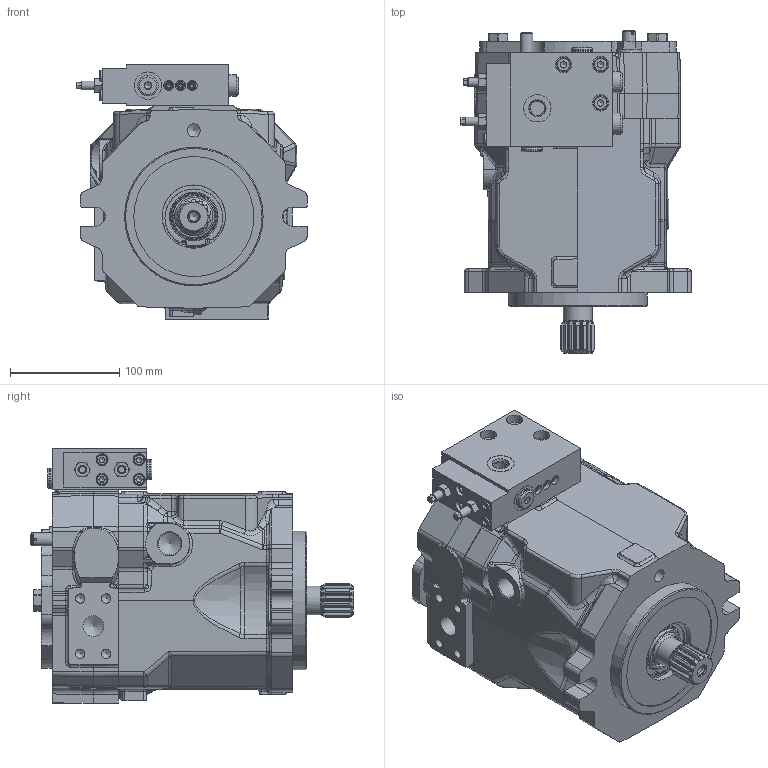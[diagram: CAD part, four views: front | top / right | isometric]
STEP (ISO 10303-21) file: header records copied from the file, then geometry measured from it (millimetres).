
FILE_DESCRIPTION(/* description */ (''),/* implementation_level */ '2;1');
FILE_NAME(/* name */ '2528055002m355.stp',/* time_stamp */ '2012-03-30T14:06:45+02:00',/* author */ (''),/* organization */ (''),/* preprocessor_version */ 'ST-DEVELOPER v11',/* originating_system */ 'SIEMENS PLM Software NX 7.5',/* authorisation */ '');
FILE_SCHEMA (('AUTOMOTIVE_DESIGN { 1 0 10303 214 1 1 1 1 }'));
Products named in the file (1): 2528055002m355
Bounding box: 211.3 x 295.3 x 233 mm (x, y, z)
Volume: 6401731.7 mm3; surface area: 537138.3 mm2
Topology: 7 solids, 25 shells, 2114 faces, 5052 edges, 3085 vertices
Faces by surface type: plane 742, cylinder 671, cone 260, bspline 181, torus 123, extrusion 64, sphere 37, revolution 36
Full cylindrical faces by diameter (mm): 2 x4, 2.5 x2, 3.8 x2, 4 x2, 5 x8, 5.2 x3, 6 x4, 7 x3, 8 x10, 8.5 x8, 9 x7, 9.2 x3, 10 x14, 10.2 x16, 10.5 x1, 10.7 x2, 11 x6, 11.85 x4, 12 x11, 12.3 x1, 12.5 x2, 12.8 x2, 13 x10, 13.5 x8, 14 x2, 15 x4, 16 x2, 16.63 x2, 18 x11, 18.8 x4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
Entity records: 65775 total; most frequent: CARTESIAN_POINT 20420, DIRECTION 9304, ORIENTED_EDGE 8918, EDGE_CURVE 4459, AXIS2_PLACEMENT_3D 3754, VERTEX_POINT 2951, EDGE_LOOP 2666, ADVANCED_FACE 2114
